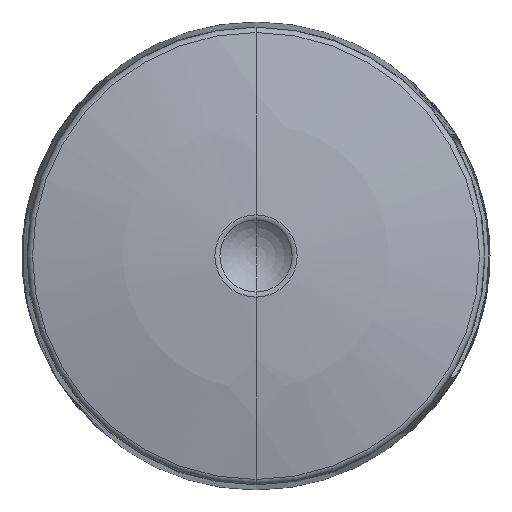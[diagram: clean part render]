
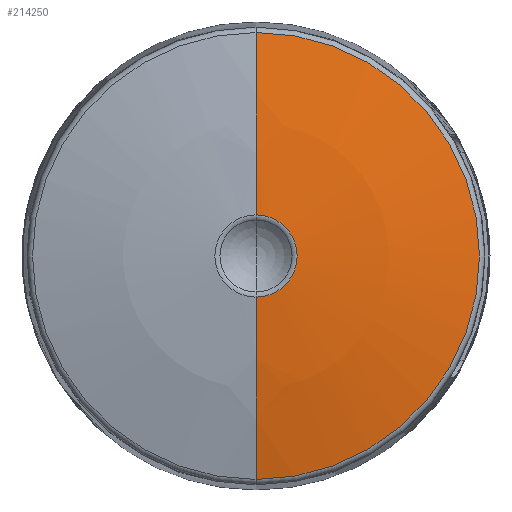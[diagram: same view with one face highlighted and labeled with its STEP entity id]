
A CAD part, left-side view. The second image highlights one B-rep face of the part: STEP entity #214250.
In plain terms, the highlighted spherical face has radius 27.625 mm.
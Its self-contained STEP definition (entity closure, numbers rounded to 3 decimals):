
#213830=CARTESIAN_POINT('',(59.698,46.615,
0.));
#213840=DIRECTION('',(1.,0.,0.));
#213850=DIRECTION('',(0.,0.,-1.));
#213860=AXIS2_PLACEMENT_3D('',#213830,#213840,#213850);
#213870=SPHERICAL_SURFACE('',#213860,27.625);
#213880=CARTESIAN_POINT('',(32.836,46.615,
0.));
#213890=DIRECTION('',(1.,0.,0.));
#213900=DIRECTION('',(0.,0.,-1.));
#213910=AXIS2_PLACEMENT_3D('',#213880,#213890,#213900);
#213920=CIRCLE('',#213910,6.447);
#213930=CARTESIAN_POINT('',(32.836,40.168,
0.));
#213940=VERTEX_POINT('',#213930);
#213950=CARTESIAN_POINT('',(32.836,46.615,
-6.447));
#213960=VERTEX_POINT('',#213950);
#213970=EDGE_CURVE('',#213940,#213960,#213920,.T.);
#213980=ORIENTED_EDGE('',*,*,#213970,.F.);
#213990=CARTESIAN_POINT('',(59.698,46.615,
0.));
#214000=DIRECTION('',(0.,1.,0.));
#214010=DIRECTION('',(1.,0.,0.));
#214020=AXIS2_PLACEMENT_3D('',#213990,#214000,#214010);
#214030=CIRCLE('',#214020,27.625);
#214040=CARTESIAN_POINT('',(32.098,46.615,
-1.187));
#214050=VERTEX_POINT('',#214040);
#214060=EDGE_CURVE('',#213960,#214050,#214030,.T.);
#214070=ORIENTED_EDGE('',*,*,#214060,.F.);
#214080=CARTESIAN_POINT('',(32.098,46.615,
0.));
#214090=DIRECTION('',(1.,0.,0.));
#214100=DIRECTION('',(0.,0.,-1.));
#214110=AXIS2_PLACEMENT_3D('',#214080,#214090,#214100);
#214120=CIRCLE('',#214110,1.187);
#214130=CARTESIAN_POINT('',(32.098,46.615,
1.187));
#214140=VERTEX_POINT('',#214130);
#214150=EDGE_CURVE('',#214140,#214050,#214120,.T.);
#214160=ORIENTED_EDGE('',*,*,#214150,.T.);
#214170=CARTESIAN_POINT('',(32.836,46.615,
6.447));
#214180=VERTEX_POINT('',#214170);
#214190=EDGE_CURVE('',#214140,#214180,#214030,.T.);
#214200=ORIENTED_EDGE('',*,*,#214190,.F.);
#214210=EDGE_CURVE('',#214180,#213940,#213920,.T.);
#214220=ORIENTED_EDGE('',*,*,#214210,.F.);
#214230=EDGE_LOOP('',(#214220,#214200,#214160,#214070,#213980));
#214240=FACE_OUTER_BOUND('',#214230,.T.);
#214250=ADVANCED_FACE('',(#214240),#213870,.T.);
